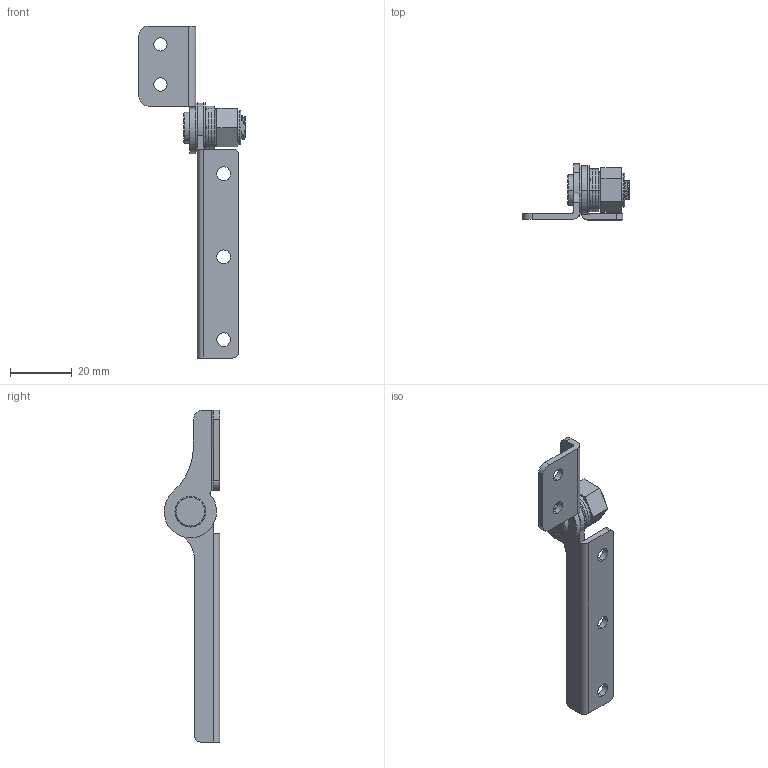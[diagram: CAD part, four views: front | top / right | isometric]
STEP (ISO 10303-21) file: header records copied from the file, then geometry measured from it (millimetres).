
FILE_DESCRIPTION (( 'STEP AP203' ), '1' );
FILE_NAME ('XG11-047-5L.STEP', '2025-07-26T07:58:38', ( '微软用户' ), ( '微软中国' ), 'SwSTEP 2.0', 'SolidWorks 2024', '' );
FILE_SCHEMA (( 'CONFIG_CONTROL_DESIGN' ));
Length unit declared in the file: millimetre
Products named in the file (1): XG11-047-5L
Bounding box: 34.5 x 18.06 x 107.81 mm (x, y, z)
Volume: 6576.4 mm3; surface area: 8662.9 mm2
Topology: 10 solids, 10 shells, 238 faces, 633 edges, 417 vertices
Faces by surface type: plane 102, cylinder 89, bspline 32, cone 13, torus 2
Entity records: 11952 total; most frequent: CARTESIAN_POINT 6062, ORIENTED_EDGE 1266, DIRECTION 1118, EDGE_CURVE 633, VERTEX_POINT 417, AXIS2_PLACEMENT_3D 406, VECTOR 306, LINE 306
